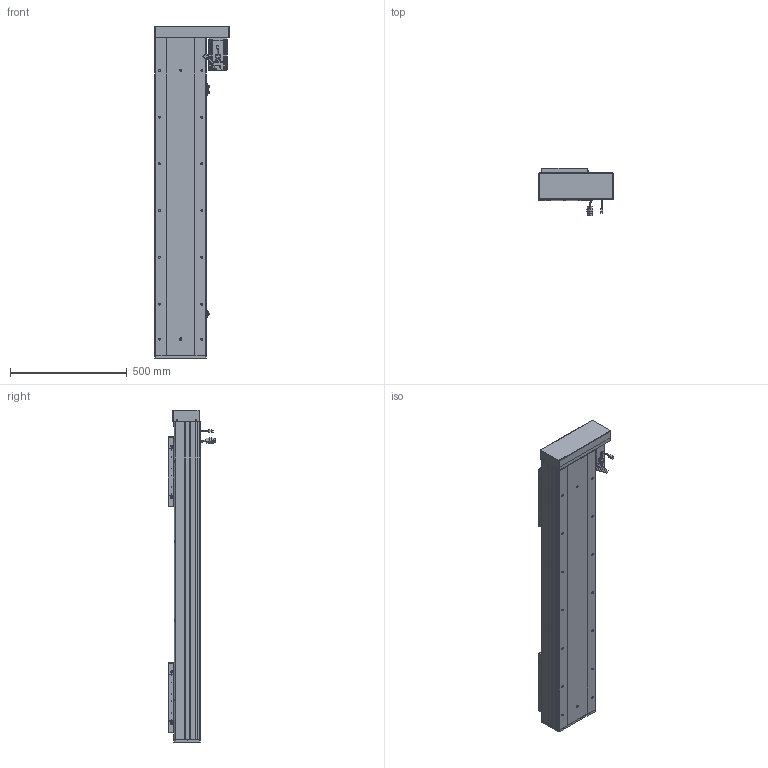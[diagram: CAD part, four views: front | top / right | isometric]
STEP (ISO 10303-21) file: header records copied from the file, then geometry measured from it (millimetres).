
FILE_DESCRIPTION (( 'STEP AP203' ), '1' );
FILE_NAME ('RY220F-L2525-300-RK.SLDASM_950.step', '2022-07-04T01:35:17', ( '' ), ( '' ), 'SwSTEP 2.0', 'SolidWorks 2016', '' );
FILE_SCHEMA (( 'CONFIG_CONTROL_DESIGN' ));
Length unit declared in the file: millimetre
Products named in the file (15): RY220F臏賑釱25-32佪裝; RY220F-滅鳥奻裔; RY220F-祥凄詩湍-蛌殏-300_950; 侐源滅袉蝶; RY220酘衵殏萇儂欶; 怢湛750W_ECMA-CX0807ES; RY220F蛌殏菁釱-300_950; 滅袉蝶18-24; RY220F-蛌殏奻裔啣-300_950; RY220F-詩湍揤踡輸; RY220F綴裔啣; 覜茼ん672; RY220左右折电机安装板; RY220F-672覜茼んえ; RY220F-L2525-300-RK.SLDASM_950
Assembly tree (24 placements, depth 2):
  RY220F-L2525-300-RK.SLDASM_950
    RY220F蛌殏菁釱-300_950
    RY220F-蛌殏奻裔啣-300_950  x2
    怢湛750W_ECMA-CX0807ES
    RY220F臏賑釱25-32佪裝  x2
    RY220F-滅鳥奻裔  x2
    滅袉蝶18-24  x3
    RY220F綴裔啣
    RY220F-祥凄詩湍-蛌殏-300_950
    RY220F-詩湍揤踡輸  x2
    覜茼ん672  x3
    RY220F-672覜茼んえ  x2
    RY220左右折电机安装板
    RY220酘衵殏萇儂欶
    侐源滅袉蝶  x2
Bounding box: 317.5 x 205.27 x 1421 mm (x, y, z)
Volume: 14122434.4 mm3; surface area: 3678819.8 mm2
Topology: 25 solids, 25 shells, 2728 faces, 7428 edges, 4608 vertices
Faces by surface type: cylinder 1226, plane 1044, cone 387, bspline 45, sphere 16, torus 10
Entity records: 67604 total; most frequent: CARTESIAN_POINT 18469, ORIENTED_EDGE 9942, DIRECTION 9624, EDGE_CURVE 4971, AXIS2_PLACEMENT_3D 3414, VERTEX_POINT 3224, VECTOR 2796, LINE 2796
